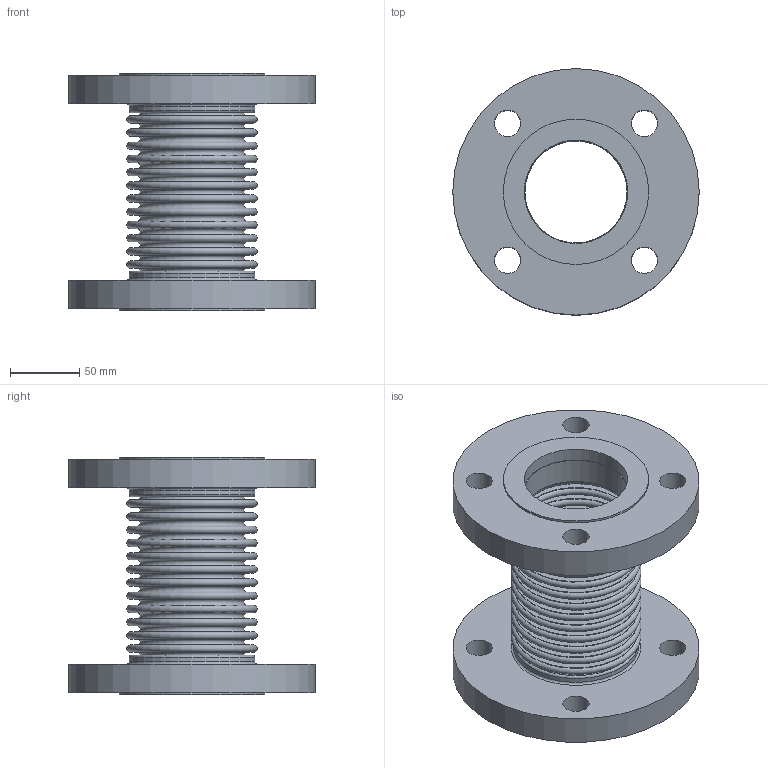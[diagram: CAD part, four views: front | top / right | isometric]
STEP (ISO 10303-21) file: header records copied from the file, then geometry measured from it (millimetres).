
FILE_DESCRIPTION(/* description */ ('EXPANSION JOINT,SINGLE, FLANGED ENDS,2 1/2 INCH NOMINAL','CAx-IF Rec.Pracs.---Representation and Presentation of Product Manufacturing Information (PMI)---4.0---2014-10-13'),/* implementation_level */ '2;1');
FILE_NAME(/* name */ 'US-02.5-12-85L-FLANGED ENDS.stp',/* time_stamp */ '2026-07-31T16:39:43-05:00',/* author */ ('Guadalupe'),/* organization */ (''),/* preprocessor_version */ 'ST-DEVELOPER v20.1',/* originating_system */ 'Autodesk Inventor 2026',/* authorisation */ '');
FILE_SCHEMA (('AP242_MANAGED_MODEL_BASED_3D_ENGINEERING_MIM_LF { 1 0 10303 442 2 1 4 }'));
Length unit declared in the file: inch
Products named in the file (3): 02.5-85L; 02.5-85L-02; 02.5-85L-01
Assembly tree (3 placements, depth 2):
  02.5-85L
    02.5-85L-02  x2
    02.5-85L-01
Bounding box: 177.8 x 177.8 x 171.2 mm (x, y, z)
Volume: 873396.8 mm3; surface area: 302669.5 mm2
Topology: 5 solids, 5 shells, 136 faces, 222 edges, 148 vertices
Faces by surface type: plane 62, torus 54, cylinder 20
Full cylindrical faces by diameter (mm): 19.05 x8, 73.66 x2, 74.574 x2, 74.676 x2, 90.424 x2, 104.902 x2, 177.8 x2
Entity records: 3138 total; most frequent: DIRECTION 654, CARTESIAN_POINT 465, ORIENTED_EDGE 384, AXIS2_PLACEMENT_3D 321, EDGE_CURVE 192, EDGE_LOOP 188, CIRCLE 180, VERTEX_POINT 128
